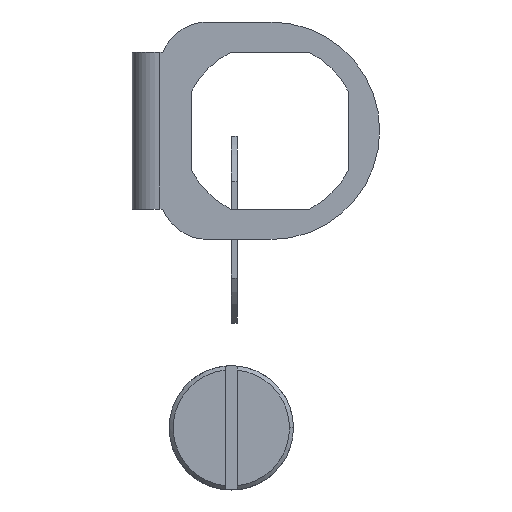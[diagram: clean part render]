
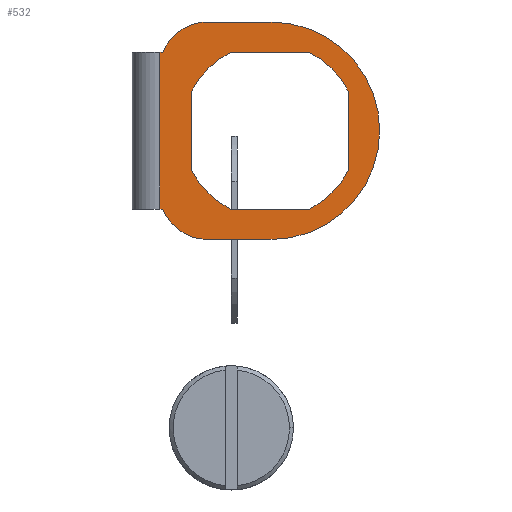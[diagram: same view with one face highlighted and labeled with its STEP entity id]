
A CAD part, left-side view. The second image highlights one B-rep face of the part: STEP entity #532.
In plain terms, the highlighted planar face has unit normal (-1, 0, 0) as drawn and (0, 0, 1) by its records, which use the part's own axes.
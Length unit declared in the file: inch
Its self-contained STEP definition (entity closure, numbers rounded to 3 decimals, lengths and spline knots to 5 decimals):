
#1 = DIRECTION ( 'NONE',  ( -1., 0., 0. ) ) ;
#9 = DIRECTION ( 'NONE',  ( 1., 0., 0. ) ) ;
#13 = CIRCLE ( 'NONE', #2213, 0.443 ) ;
#19 = VERTEX_POINT ( 'NONE', #2157 ) ;
#121 = VERTEX_POINT ( 'NONE', #607 ) ;
#140 = VECTOR ( 'NONE', #258, 39.37008 ) ;
#145 = CARTESIAN_POINT ( 'NONE',  ( -0.549, 0., 0. ) ) ;
#182 = CARTESIAN_POINT ( 'NONE',  ( 0.19957, -0.3905, 0. ) ) ;
#193 = EDGE_CURVE ( 'NONE', #835, #1449, #1444, .T. ) ;
#200 = VERTEX_POINT ( 'NONE', #182 ) ;
#225 = CARTESIAN_POINT ( 'NONE',  ( 0., 0.005, 0. ) ) ;
#258 = DIRECTION ( 'NONE',  ( 0., -1., 0. ) ) ;
#267 = ORIENTED_EDGE ( 'NONE', *, *, #1205, .T. ) ;
#283 = CARTESIAN_POINT ( 'NONE',  ( 0.3955, 0.20457, 0. ) ) ;
#326 = VERTEX_POINT ( 'NONE', #1819 ) ;
#340 = EDGE_CURVE ( 'NONE', #921, #1932, #13, .T. ) ;
#343 = CIRCLE ( 'NONE', #2567, 0.443 ) ;
#401 = ORIENTED_EDGE ( 'NONE', *, *, #340, .F. ) ;
#435 = DIRECTION ( 'NONE',  ( 1., 0., 0. ) ) ;
#447 = CARTESIAN_POINT ( 'NONE',  ( 0., 0.005, 0. ) ) ;
#469 = ORIENTED_EDGE ( 'NONE', *, *, #991, .T. ) ;
#481 = LINE ( 'NONE', #934, #1808 ) ;
#489 = CARTESIAN_POINT ( 'NONE',  ( 0., 0., 0. ) ) ;
#502 = DIRECTION ( 'NONE',  ( 0., 0., 1. ) ) ;
#503 = DIRECTION ( 'NONE',  ( 1., 0., 0. ) ) ;
#507 = ORIENTED_EDGE ( 'NONE', *, *, #818, .T. ) ;
#532 = ADVANCED_FACE ( 'NONE', ( #699, #1597 ), #2538, .T. ) ;
#552 = VERTEX_POINT ( 'NONE', #2086 ) ;
#565 = CARTESIAN_POINT ( 'NONE',  ( 0., 0., 0. ) ) ;
#567 = CARTESIAN_POINT ( 'NONE',  ( 0.3955, -0.19457, 0. ) ) ;
#585 = VERTEX_POINT ( 'NONE', #283 ) ;
#607 = CARTESIAN_POINT ( 'NONE',  ( -0.3955, -0.19457, 0. ) ) ;
#619 = ORIENTED_EDGE ( 'NONE', *, *, #1006, .T. ) ;
#633 = CARTESIAN_POINT ( 'NONE',  ( -0.549, 0., 0. ) ) ;
#650 = CARTESIAN_POINT ( 'NONE',  ( -0.3955, 0.20457, 0. ) ) ;
#654 = CARTESIAN_POINT ( 'NONE',  ( 0.549, 0., 0. ) ) ;
#657 = CARTESIAN_POINT ( 'NONE',  ( -0.3955, 0.20457, 0. ) ) ;
#662 = CIRCLE ( 'NONE', #1957, 0.25 ) ;
#699 = FACE_BOUND ( 'NONE', #2409, .T. ) ;
#741 = CARTESIAN_POINT ( 'NONE',  ( -0.549, 0.31688, 0. ) ) ;
#758 = VERTEX_POINT ( 'NONE', #741 ) ;
#767 = ORIENTED_EDGE ( 'NONE', *, *, #2501, .T. ) ;
#774 = VECTOR ( 'NONE', #1115, 39.37008 ) ;
#784 = CARTESIAN_POINT ( 'NONE',  ( 0.3955, 0.561, 0. ) ) ;
#798 = ORIENTED_EDGE ( 'NONE', *, *, #193, .T. ) ;
#818 = EDGE_CURVE ( 'NONE', #758, #2078, #1448, .T. ) ;
#835 = VERTEX_POINT ( 'NONE', #1257 ) ;
#863 = DIRECTION ( 'NONE',  ( 0., 1., 0. ) ) ;
#866 = ORIENTED_EDGE ( 'NONE', *, *, #916, .T. ) ;
#891 = DIRECTION ( 'NONE',  ( 0., 0., 1. ) ) ;
#895 = CARTESIAN_POINT ( 'NONE',  ( -0.19957, 0.4005, 0. ) ) ;
#899 = DIRECTION ( 'NONE',  ( 0., 1., 0. ) ) ;
#916 = EDGE_CURVE ( 'NONE', #326, #1805, #2017, .T. ) ;
#917 = VERTEX_POINT ( 'NONE', #567 ) ;
#921 = VERTEX_POINT ( 'NONE', #2873 ) ;
#926 = CARTESIAN_POINT ( 'NONE',  ( -0.3955, 0.631, 0. ) ) ;
#931 = DIRECTION ( 'NONE',  ( 0., 0., 1. ) ) ;
#932 = VECTOR ( 'NONE', #435, 39.37008 ) ;
#934 = CARTESIAN_POINT ( 'NONE',  ( 0.3955, 0.20457, 0. ) ) ;
#945 = AXIS2_PLACEMENT_3D ( 'NONE', #489, #502, #9 ) ;
#949 = VERTEX_POINT ( 'NONE', #1503 ) ;
#991 = EDGE_CURVE ( 'NONE', #19, #326, #1703, .T. ) ;
#1006 = EDGE_CURVE ( 'NONE', #1449, #19, #2623, .T. ) ;
#1027 = DIRECTION ( 'NONE',  ( 1., 0., 0. ) ) ;
#1115 = DIRECTION ( 'NONE',  ( 0., -1., 0. ) ) ;
#1154 = EDGE_CURVE ( 'NONE', #917, #585, #481, .T. ) ;
#1172 = VECTOR ( 'NONE', #863, 39.37008 ) ;
#1200 = CIRCLE ( 'NONE', #2602, 0.549 ) ;
#1202 = CIRCLE ( 'NONE', #2211, 0.443 ) ;
#1205 = EDGE_CURVE ( 'NONE', #552, #758, #662, .T. ) ;
#1257 = CARTESIAN_POINT ( 'NONE',  ( 0.549, 0., 0. ) ) ;
#1313 = CARTESIAN_POINT ( 'NONE',  ( 0.3955, 0.631, 0. ) ) ;
#1341 = AXIS2_PLACEMENT_3D ( 'NONE', #2796, #1650, #503 ) ;
#1351 = DIRECTION ( 'NONE',  ( 1., 0., 0. ) ) ;
#1369 = CARTESIAN_POINT ( 'NONE',  ( 0., 0.005, 0. ) ) ;
#1444 = LINE ( 'NONE', #654, #2655 ) ;
#1448 = LINE ( 'NONE', #145, #1697 ) ;
#1449 = VERTEX_POINT ( 'NONE', #2250 ) ;
#1459 = CIRCLE ( 'NONE', #1341, 0.443 ) ;
#1478 = EDGE_CURVE ( 'NONE', #1805, #552, #2936, .T. ) ;
#1503 = CARTESIAN_POINT ( 'NONE',  ( -0.19957, -0.3905, 0. ) ) ;
#1525 = DIRECTION ( 'NONE',  ( 0., 0., 1. ) ) ;
#1544 = DIRECTION ( 'NONE',  ( 0., 0., 1. ) ) ;
#1553 = ORIENTED_EDGE ( 'NONE', *, *, #2649, .F. ) ;
#1585 = EDGE_CURVE ( 'NONE', #585, #2761, #1202, .T. ) ;
#1595 = ORIENTED_EDGE ( 'NONE', *, *, #2395, .F. ) ;
#1597 = FACE_OUTER_BOUND ( 'NONE', #2552, .T. ) ;
#1621 = DIRECTION ( 'NONE',  ( 1., 0., 0. ) ) ;
#1650 = DIRECTION ( 'NONE',  ( 0., 0., 1. ) ) ;
#1697 = VECTOR ( 'NONE', #1708, 39.37008 ) ;
#1700 = ORIENTED_EDGE ( 'NONE', *, *, #1478, .T. ) ;
#1703 = LINE ( 'NONE', #1313, #1172 ) ;
#1708 = DIRECTION ( 'NONE',  ( 0., -1., 0. ) ) ;
#1771 = CARTESIAN_POINT ( 'NONE',  ( 0.299, 0.31688, 0. ) ) ;
#1789 = LINE ( 'NONE', #895, #2928 ) ;
#1805 = VERTEX_POINT ( 'NONE', #2214 ) ;
#1808 = VECTOR ( 'NONE', #899, 39.37008 ) ;
#1818 = CARTESIAN_POINT ( 'NONE',  ( -0.19957, -0.3905, 0. ) ) ;
#1819 = CARTESIAN_POINT ( 'NONE',  ( 0.3955, 0.561, 0. ) ) ;
#1828 = DIRECTION ( 'NONE',  ( 1., 0., 0. ) ) ;
#1830 = CARTESIAN_POINT ( 'NONE',  ( -0.299, 0.31688, 0. ) ) ;
#1833 = DIRECTION ( 'NONE',  ( 1., 0., 0. ) ) ;
#1839 = DIRECTION ( 'NONE',  ( 0., 0., 1. ) ) ;
#1932 = VERTEX_POINT ( 'NONE', #657 ) ;
#1957 = AXIS2_PLACEMENT_3D ( 'NONE', #1830, #891, #1351 ) ;
#2017 = LINE ( 'NONE', #784, #2919 ) ;
#2078 = VERTEX_POINT ( 'NONE', #633 ) ;
#2086 = CARTESIAN_POINT ( 'NONE',  ( -0.3955, 0.5475, 0. ) ) ;
#2100 = LINE ( 'NONE', #650, #774 ) ;
#2157 = CARTESIAN_POINT ( 'NONE',  ( 0.3955, 0.5475, 0. ) ) ;
#2180 = ORIENTED_EDGE ( 'NONE', *, *, #2237, .F. ) ;
#2192 = EDGE_CURVE ( 'NONE', #200, #917, #343, .T. ) ;
#2211 = AXIS2_PLACEMENT_3D ( 'NONE', #447, #1839, #1621 ) ;
#2213 = AXIS2_PLACEMENT_3D ( 'NONE', #225, #931, #1828 ) ;
#2214 = CARTESIAN_POINT ( 'NONE',  ( -0.3955, 0.561, 0. ) ) ;
#2237 = EDGE_CURVE ( 'NONE', #949, #200, #2240, .T. ) ;
#2240 = LINE ( 'NONE', #1818, #932 ) ;
#2250 = CARTESIAN_POINT ( 'NONE',  ( 0.549, 0.31688, 0. ) ) ;
#2278 = EDGE_CURVE ( 'NONE', #2761, #921, #1789, .T. ) ;
#2395 = EDGE_CURVE ( 'NONE', #121, #949, #1459, .T. ) ;
#2398 = ORIENTED_EDGE ( 'NONE', *, *, #1585, .F. ) ;
#2409 = EDGE_LOOP ( 'NONE', ( #2691, #2180, #1595, #1553, #401, #2548, #2398, #2523 ) ) ;
#2413 = AXIS2_PLACEMENT_3D ( 'NONE', #1771, #1525, #2459 ) ;
#2459 = DIRECTION ( 'NONE',  ( 1., 0., 0. ) ) ;
#2501 = EDGE_CURVE ( 'NONE', #2078, #835, #1200, .T. ) ;
#2523 = ORIENTED_EDGE ( 'NONE', *, *, #1154, .F. ) ;
#2538 = PLANE ( 'NONE',  #945 ) ;
#2548 = ORIENTED_EDGE ( 'NONE', *, *, #2278, .F. ) ;
#2552 = EDGE_LOOP ( 'NONE', ( #469, #866, #1700, #267, #507, #767, #798, #619 ) ) ;
#2567 = AXIS2_PLACEMENT_3D ( 'NONE', #1369, #2958, #1833 ) ;
#2602 = AXIS2_PLACEMENT_3D ( 'NONE', #565, #1544, #1027 ) ;
#2623 = CIRCLE ( 'NONE', #2413, 0.25 ) ;
#2645 = DIRECTION ( 'NONE',  ( -1., 0., 0. ) ) ;
#2649 = EDGE_CURVE ( 'NONE', #1932, #121, #2100, .T. ) ;
#2655 = VECTOR ( 'NONE', #2910, 39.37008 ) ;
#2691 = ORIENTED_EDGE ( 'NONE', *, *, #2192, .F. ) ;
#2761 = VERTEX_POINT ( 'NONE', #2972 ) ;
#2796 = CARTESIAN_POINT ( 'NONE',  ( 0., 0.005, 0. ) ) ;
#2873 = CARTESIAN_POINT ( 'NONE',  ( -0.19957, 0.4005, 0. ) ) ;
#2910 = DIRECTION ( 'NONE',  ( 0., 1., 0. ) ) ;
#2919 = VECTOR ( 'NONE', #2645, 39.37008 ) ;
#2928 = VECTOR ( 'NONE', #1, 39.37008 ) ;
#2936 = LINE ( 'NONE', #926, #140 ) ;
#2958 = DIRECTION ( 'NONE',  ( 0., 0., 1. ) ) ;
#2972 = CARTESIAN_POINT ( 'NONE',  ( 0.19957, 0.4005, 0. ) ) ;
